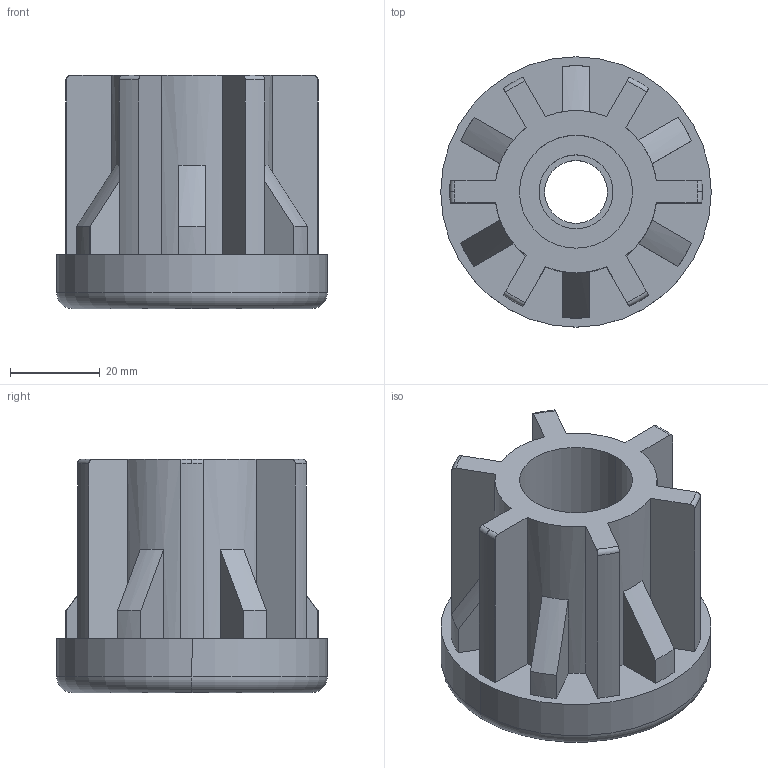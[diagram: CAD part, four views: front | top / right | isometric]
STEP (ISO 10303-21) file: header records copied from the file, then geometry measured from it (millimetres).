
FILE_DESCRIPTION (( 'STEP AP214' ), '1' );
FILE_NAME ('42006460414.STEP', '2020-02-25T17:37:53', ( '' ), ( '' ), 'SwSTEP 2.0', 'SolidWorks 2018', '' );
FILE_SCHEMA (( 'AUTOMOTIVE_DESIGN' ));
Length unit declared in the file: millimetre
Products named in the file (4): 42006460414.stp; 42006460414; BC_M14.stp; corpo tappo M14_60_57.stp
Assembly tree (3 placements, depth 3):
  42006460414
    42006460414.stp
      corpo tappo M14_60_57.stp
      BC_M14.stp
Bounding box: 60.3 x 60.3 x 52 mm (x, y, z)
Volume: 75422.3 mm3; surface area: 23198.7 mm2
Topology: 2 solids, 2 shells, 107 faces, 280 edges, 180 vertices
Faces by surface type: cylinder 46, plane 31, torus 16, cone 8, bspline 6
Entity records: 4314 total; most frequent: CARTESIAN_POINT 1534, DIRECTION 572, ORIENTED_EDGE 560, EDGE_CURVE 280, AXIS2_PLACEMENT_3D 226, VERTEX_POINT 180, LINE 120, VECTOR 120
